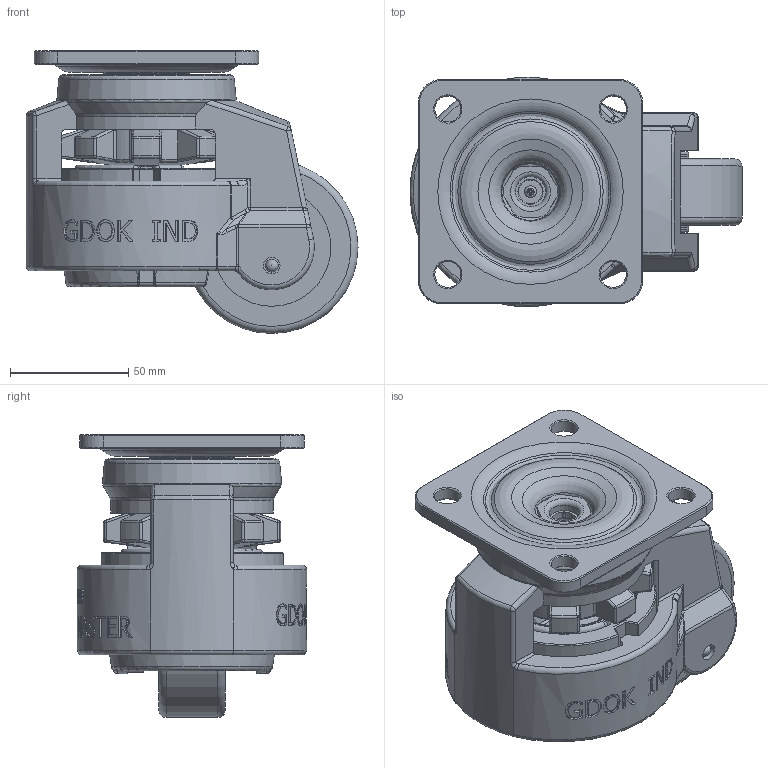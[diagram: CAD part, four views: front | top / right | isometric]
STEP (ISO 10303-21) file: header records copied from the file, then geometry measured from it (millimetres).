
FILE_DESCRIPTION((''),'2;1');
FILE_NAME('C:\Documents and Settings\Administrator\바탕 화면\12월\미스미 복사완품자료\지덕산업_3D\GD-SERIES\GD-100F\GD-100F.stp','2010-12-27T17:06:53',('Administrator'),(''),'Autodesk Inventor 2009','Autodesk Inventor 2009','');
FILE_SCHEMA(('AUTOMOTIVE_DESIGN { 1 0 10303 214 1 1 1 1 }'));
Length unit declared in the file: millimetre
Products named in the file (1): GD-100F
Bounding box: 140.5 x 97.04 x 119.76 mm (x, y, z)
Volume: 608392.4 mm3; surface area: 144875 mm2
Topology: 7 solids, 7 shells, 1584 faces, 4235 edges, 2672 vertices
Faces by surface type: bspline 496, plane 475, cylinder 298, cone 157, torus 110, sphere 48
Full cylindrical faces by diameter (mm): 1 x2, 2.4 x1, 3 x3, 5 x1, 7 x2, 8.6 x1, 8.8 x1, 10 x1, 10.6 x1, 10.7 x1, 11 x4, 12 x4, 12.8 x1, 15 x1, 16 x1, 20 x2, 25 x1, 27 x1, 28 x2, 30 x1, 41.6 x1, 42.6 x1, 42.7 x1, 43 x1, 50 x2, 73 x1
Entity records: 119774 total; most frequent: CARTESIAN_POINT 83080, ORIENTED_EDGE 8008, DIRECTION 7178, EDGE_CURVE 4004, AXIS2_PLACEMENT_3D 2983, VERTEX_POINT 2616, EDGE_LOOP 1792, CIRCLE 1705
